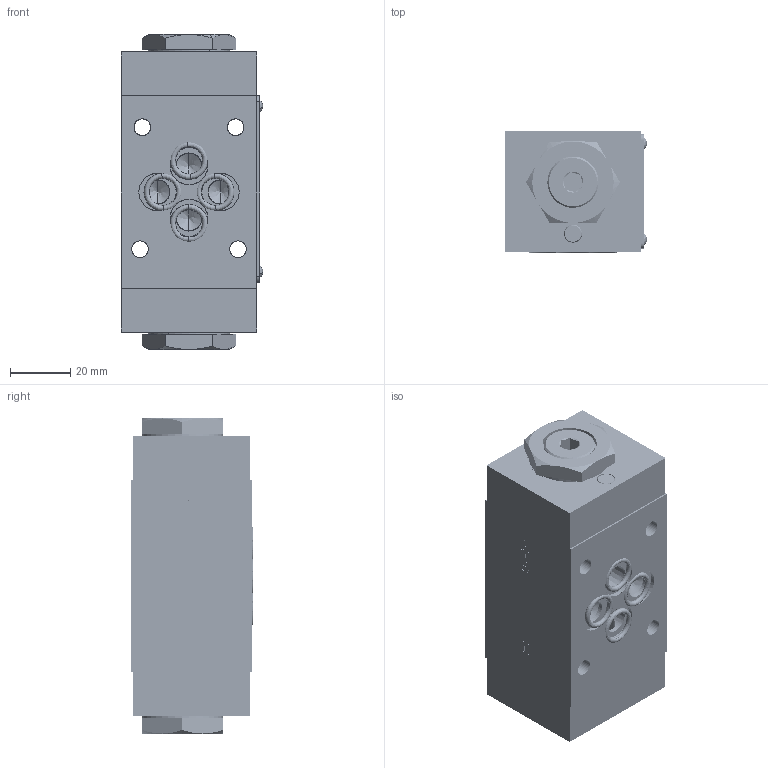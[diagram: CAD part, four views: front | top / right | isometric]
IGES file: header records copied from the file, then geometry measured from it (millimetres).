
Start section: SolidWorks IGES file using analytic representation for surfaces
Global section: file name: C:\Users\user\Desktop\FT357-8-AB-RP5-03.IGS; native system: SolidWorks 2014; preprocessor: SolidWorks 2014; author: user; date: 140617.094849; units: millimetre
Bounding box: 47 x 40.38 x 104.6 mm (x, y, z)
Surface area: 54029.8 mm2 (no closed solid volume)
Topology: 0 solids, 0 shells, 2073 faces, 26257 edges, 26221 vertices
Faces by surface type: bspline 1521, revolution 552
